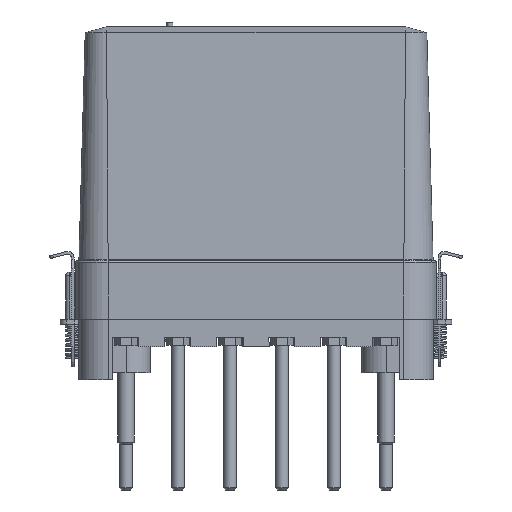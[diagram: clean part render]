
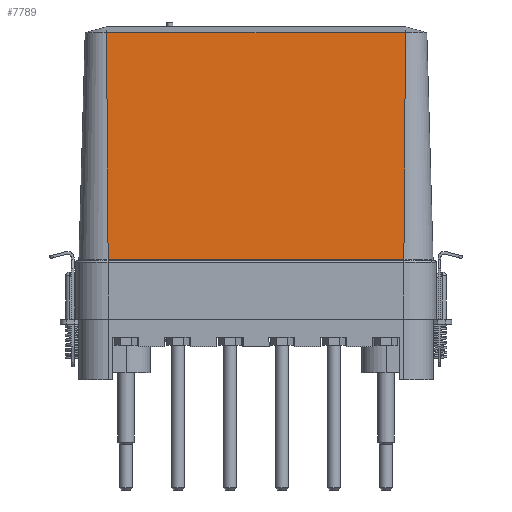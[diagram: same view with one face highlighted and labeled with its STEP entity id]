
A CAD part, left-side view. The second image highlights one B-rep face of the part: STEP entity #7789.
In plain terms, the highlighted planar face has unit normal (-1, 0, 0.028).
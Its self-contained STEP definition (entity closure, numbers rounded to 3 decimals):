
#7789=ADVANCED_FACE('',(#24177),#24179,.T.);
#24177=FACE_BOUND('',#24178,.T.);
#24178=EDGE_LOOP('',(#29135,#29136,#29137,#29138));
#24179=PLANE('',#24180);
#24180=AXIS2_PLACEMENT_3D('',#24181,#24182,#24183);
#24181=CARTESIAN_POINT('',(-30.,-46.,108.5));
#24182=DIRECTION('',(-1.,0.,0.028));
#24183=DIRECTION('',(0.,1.,0.));
#29135=ORIENTED_EDGE('',*,*,#31470,.T.);
#29136=ORIENTED_EDGE('',*,*,#31541,.F.);
#29137=ORIENTED_EDGE('',*,*,#31542,.T.);
#29138=ORIENTED_EDGE('',*,*,#31543,.T.);
#31470=EDGE_CURVE('',#35223,#35220,#35224,.T.);
#31541=EDGE_CURVE('',#35335,#35220,#35337,.T.);
#31542=EDGE_CURVE('',#35335,#35338,#35339,.T.);
#31543=EDGE_CURVE('',#35338,#35223,#35340,.T.);
#35220=VERTEX_POINT('',#45715);
#35223=VERTEX_POINT('',#45737);
#35224=LINE('',#45738,#45739);
#35335=VERTEX_POINT('',#46110);
#35337=LINE('',#46129,#46130);
#35338=VERTEX_POINT('',#46132);
#35339=LINE('',#46133,#46134);
#35340=LINE('',#46136,#46137);
#45715=CARTESIAN_POINT('',(-31.986,-45.503,36.986));
#45737=CARTESIAN_POINT('',(-31.986,45.503,36.986));
#45738=CARTESIAN_POINT('',(-31.986,45.503,36.986));
#45739=VECTOR('',#45740,1.);
#45740=DIRECTION('',(0.,-1.,0.));
#46110=CARTESIAN_POINT('',(-30.049,-45.988,106.751));
#46129=CARTESIAN_POINT('',(-30.049,-45.988,106.751));
#46130=VECTOR('',#46131,1.);
#46131=DIRECTION('',(-0.028,0.007,-1.));
#46132=CARTESIAN_POINT('',(-30.049,45.988,106.751));
#46133=CARTESIAN_POINT('',(-30.049,-45.988,106.751));
#46134=VECTOR('',#46135,1.);
#46135=DIRECTION('',(0.,1.,0.));
#46136=CARTESIAN_POINT('',(-30.049,45.988,106.751));
#46137=VECTOR('',#46138,1.);
#46138=DIRECTION('',(-0.028,-0.007,-1.));
